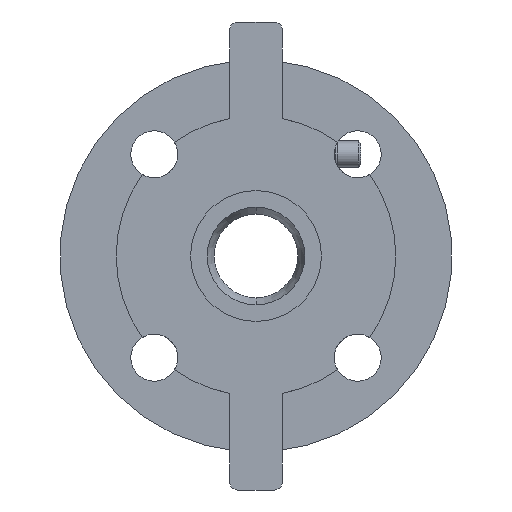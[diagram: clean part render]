
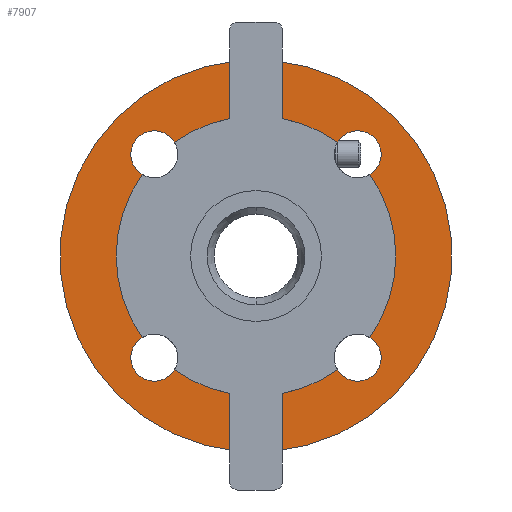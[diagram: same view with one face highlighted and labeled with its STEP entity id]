
A CAD part, front view. The second image highlights one B-rep face of the part: STEP entity #7907.
In plain terms, the highlighted planar face has unit normal (0, -1, 0).
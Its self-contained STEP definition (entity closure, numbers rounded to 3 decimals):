
#2601 = PLANE ( 'NONE',  #2980 ) ;
#2609 = CARTESIAN_POINT ( 'NONE',  ( 0., -19.6, 0. ) ) ;
#2610 = DIRECTION ( 'NONE',  ( 0., -1., 0. ) ) ;
#2611 = DIRECTION ( 'NONE',  ( 0.707, 0., -0.707 ) ) ;
#2980 = AXIS2_PLACEMENT_3D ( 'NONE', #2609, #2610, #2611 ) ;
#3895 = CARTESIAN_POINT ( 'NONE',  ( 0., -19.6, 0. ) ) ;
#3896 = DIRECTION ( 'NONE',  ( 0., -1., 0. ) ) ;
#3897 = DIRECTION ( 'NONE',  ( 0.707, 0., -0.707 ) ) ;
#3911 = CARTESIAN_POINT ( 'NONE',  ( -38.891, -19.6, 38.891 ) ) ;
#3912 = DIRECTION ( 'NONE',  ( 0., -1., 0. ) ) ;
#3913 = DIRECTION ( 'NONE',  ( 0.707, 0., 0.707 ) ) ;
#3927 = CARTESIAN_POINT ( 'NONE',  ( -38.891, -19.6, -38.891 ) ) ;
#3928 = DIRECTION ( 'NONE',  ( 0., -1., 0. ) ) ;
#3929 = DIRECTION ( 'NONE',  ( -0.707, 0., 0.707 ) ) ;
#3943 = CARTESIAN_POINT ( 'NONE',  ( 38.891, -19.6, -38.891 ) ) ;
#3944 = DIRECTION ( 'NONE',  ( 0., -1., 0. ) ) ;
#3945 = DIRECTION ( 'NONE',  ( -0.707, 0., -0.707 ) ) ;
#3959 = CARTESIAN_POINT ( 'NONE',  ( 38.891, -19.6, 38.891 ) ) ;
#3960 = DIRECTION ( 'NONE',  ( 0., -1., 0. ) ) ;
#3961 = DIRECTION ( 'NONE',  ( 0.707, 0., -0.707 ) ) ;
#3970 = CARTESIAN_POINT ( 'NONE',  ( 0., -19.6, 0. ) ) ;
#3971 = DIRECTION ( 'NONE',  ( 0., -1., 0. ) ) ;
#3972 = DIRECTION ( 'NONE',  ( 0.707, 0., -0.707 ) ) ;
#4013 = CARTESIAN_POINT ( 'NONE',  ( 0., -19.6, 0. ) ) ;
#4014 = DIRECTION ( 'NONE',  ( 0., -1., 0. ) ) ;
#4015 = DIRECTION ( 'NONE',  ( 0.707, 0., -0.707 ) ) ;
#4025 = CARTESIAN_POINT ( 'NONE',  ( 0., -19.6, 0. ) ) ;
#4026 = DIRECTION ( 'NONE',  ( 0., -1., 0. ) ) ;
#4027 = DIRECTION ( 'NONE',  ( 0.707, 0., -0.707 ) ) ;
#4031 = CARTESIAN_POINT ( 'NONE',  ( -38.891, -19.6, 38.891 ) ) ;
#4032 = DIRECTION ( 'NONE',  ( 0., -1., 0. ) ) ;
#4033 = DIRECTION ( 'NONE',  ( 0.707, 0., 0.707 ) ) ;
#4037 = CARTESIAN_POINT ( 'NONE',  ( -38.891, -19.6, -38.891 ) ) ;
#4038 = DIRECTION ( 'NONE',  ( 0., -1., 0. ) ) ;
#4039 = DIRECTION ( 'NONE',  ( -0.707, 0., 0.707 ) ) ;
#4043 = CARTESIAN_POINT ( 'NONE',  ( 38.891, -19.6, -38.891 ) ) ;
#4044 = DIRECTION ( 'NONE',  ( 0., -1., 0. ) ) ;
#4045 = DIRECTION ( 'NONE',  ( -0.707, 0., -0.707 ) ) ;
#4049 = CARTESIAN_POINT ( 'NONE',  ( 38.891, -19.6, 38.891 ) ) ;
#4050 = DIRECTION ( 'NONE',  ( 0., -1., 0. ) ) ;
#4051 = DIRECTION ( 'NONE',  ( 0.707, 0., -0.707 ) ) ;
#4391 = CARTESIAN_POINT ( 'NONE',  ( 53.033, -19.6, -53.033 ) ) ;
#4427 = CARTESIAN_POINT ( 'NONE',  ( -45.255, -19.6, 45.255 ) ) ;
#4428 = CARTESIAN_POINT ( 'NONE',  ( -26.87, -19.6, 26.87 ) ) ;
#4429 = CARTESIAN_POINT ( 'NONE',  ( 26.87, -19.6, -26.87 ) ) ;
#4430 = CARTESIAN_POINT ( 'NONE',  ( -45.255, -19.6, -32.527 ) ) ;
#4431 = CARTESIAN_POINT ( 'NONE',  ( -32.527, -19.6, 32.527 ) ) ;
#4432 = CARTESIAN_POINT ( 'NONE',  ( 32.527, -19.6, -32.527 ) ) ;
#4433 = CARTESIAN_POINT ( 'NONE',  ( -32.527, -19.6, -45.255 ) ) ;
#4434 = CARTESIAN_POINT ( 'NONE',  ( 32.527, -19.6, 45.255 ) ) ;
#4435 = CARTESIAN_POINT ( 'NONE',  ( 45.255, -19.6, -45.255 ) ) ;
#4436 = CARTESIAN_POINT ( 'NONE',  ( -53.033, -19.6, 53.033 ) ) ;
#4437 = CARTESIAN_POINT ( 'NONE',  ( 45.255, -19.6, 32.527 ) ) ;
#7042 = ORIENTED_EDGE ( 'NONE', *, *, #11876, .F. ) ;
#7043 = ORIENTED_EDGE ( 'NONE', *, *, #11828, .F. ) ;
#7044 = ORIENTED_EDGE ( 'NONE', *, *, #11878, .F. ) ;
#7045 = ORIENTED_EDGE ( 'NONE', *, *, #11834, .F. ) ;
#7046 = ORIENTED_EDGE ( 'NONE', *, *, #11880, .F. ) ;
#7047 = ORIENTED_EDGE ( 'NONE', *, *, #11840, .F. ) ;
#7048 = ORIENTED_EDGE ( 'NONE', *, *, #11882, .F. ) ;
#7049 = ORIENTED_EDGE ( 'NONE', *, *, #11846, .F. ) ;
#7050 = ORIENTED_EDGE ( 'NONE', *, *, #11884, .F. ) ;
#7051 = ORIENTED_EDGE ( 'NONE', *, *, #11852, .F. ) ;
#7052 = ORIENTED_EDGE ( 'NONE', *, *, #11872, .T. ) ;
#7053 = ORIENTED_EDGE ( 'NONE', *, *, #11856, .T. ) ;
#7907 = ADVANCED_FACE ( 'NONE', ( #18628, #18632, #18629, #18627, #18630, #18633 ), #2601, .T. ) ;
#11828 = EDGE_CURVE ( 'NONE', #12408, #12409, #16206, .T. ) ;
#11834 = EDGE_CURVE ( 'NONE', #12407, #12411, #16213, .T. ) ;
#11840 = EDGE_CURVE ( 'NONE', #12410, #12413, #16224, .T. ) ;
#11846 = EDGE_CURVE ( 'NONE', #12412, #12415, #16229, .T. ) ;
#11852 = EDGE_CURVE ( 'NONE', #12414, #12417, #16237, .T. ) ;
#11856 = EDGE_CURVE ( 'NONE', #12371, #12416, #16243, .T. ) ;
#11872 = EDGE_CURVE ( 'NONE', #12416, #12371, #16263, .T. ) ;
#11876 = EDGE_CURVE ( 'NONE', #12409, #12408, #16267, .T. ) ;
#11878 = EDGE_CURVE ( 'NONE', #12411, #12407, #16269, .T. ) ;
#11880 = EDGE_CURVE ( 'NONE', #12413, #12410, #16273, .T. ) ;
#11882 = EDGE_CURVE ( 'NONE', #12415, #12412, #16271, .T. ) ;
#11884 = EDGE_CURVE ( 'NONE', #12417, #12414, #16277, .T. ) ;
#12181 = EDGE_LOOP ( 'NONE', ( #7052, #7053 ) ) ;
#12196 = EDGE_LOOP ( 'NONE', ( #7044, #7045 ) ) ;
#12208 = EDGE_LOOP ( 'NONE', ( #7042, #7043 ) ) ;
#12211 = EDGE_LOOP ( 'NONE', ( #7050, #7051 ) ) ;
#12213 = EDGE_LOOP ( 'NONE', ( #7048, #7049 ) ) ;
#12214 = EDGE_LOOP ( 'NONE', ( #7046, #7047 ) ) ;
#12371 = VERTEX_POINT ( 'NONE', #4391 ) ;
#12407 = VERTEX_POINT ( 'NONE', #4427 ) ;
#12408 = VERTEX_POINT ( 'NONE', #4428 ) ;
#12409 = VERTEX_POINT ( 'NONE', #4429 ) ;
#12410 = VERTEX_POINT ( 'NONE', #4430 ) ;
#12411 = VERTEX_POINT ( 'NONE', #4431 ) ;
#12412 = VERTEX_POINT ( 'NONE', #4432 ) ;
#12413 = VERTEX_POINT ( 'NONE', #4433 ) ;
#12414 = VERTEX_POINT ( 'NONE', #4434 ) ;
#12415 = VERTEX_POINT ( 'NONE', #4435 ) ;
#12416 = VERTEX_POINT ( 'NONE', #4436 ) ;
#12417 = VERTEX_POINT ( 'NONE', #4437 ) ;
#16206 = CIRCLE ( 'NONE', #17662, 38. ) ;
#16213 = CIRCLE ( 'NONE', #17666, 9. ) ;
#16224 = CIRCLE ( 'NONE', #17670, 9. ) ;
#16229 = CIRCLE ( 'NONE', #17674, 9. ) ;
#16237 = CIRCLE ( 'NONE', #17678, 9. ) ;
#16243 = CIRCLE ( 'NONE', #17681, 75. ) ;
#16263 = CIRCLE ( 'NONE', #17693, 75. ) ;
#16267 = CIRCLE ( 'NONE', #17697, 38. ) ;
#16269 = CIRCLE ( 'NONE', #17699, 9. ) ;
#16271 = CIRCLE ( 'NONE', #17703, 9. ) ;
#16273 = CIRCLE ( 'NONE', #17701, 9. ) ;
#16277 = CIRCLE ( 'NONE', #17705, 9. ) ;
#17662 = AXIS2_PLACEMENT_3D ( 'NONE', #3895, #3896, #3897 ) ;
#17666 = AXIS2_PLACEMENT_3D ( 'NONE', #3911, #3912, #3913 ) ;
#17670 = AXIS2_PLACEMENT_3D ( 'NONE', #3927, #3928, #3929 ) ;
#17674 = AXIS2_PLACEMENT_3D ( 'NONE', #3943, #3944, #3945 ) ;
#17678 = AXIS2_PLACEMENT_3D ( 'NONE', #3959, #3960, #3961 ) ;
#17681 = AXIS2_PLACEMENT_3D ( 'NONE', #3970, #3971, #3972 ) ;
#17693 = AXIS2_PLACEMENT_3D ( 'NONE', #4013, #4014, #4015 ) ;
#17697 = AXIS2_PLACEMENT_3D ( 'NONE', #4025, #4026, #4027 ) ;
#17699 = AXIS2_PLACEMENT_3D ( 'NONE', #4031, #4032, #4033 ) ;
#17701 = AXIS2_PLACEMENT_3D ( 'NONE', #4037, #4038, #4039 ) ;
#17703 = AXIS2_PLACEMENT_3D ( 'NONE', #4043, #4044, #4045 ) ;
#17705 = AXIS2_PLACEMENT_3D ( 'NONE', #4049, #4050, #4051 ) ;
#18627 = FACE_BOUND ( 'NONE', #12213, .T. ) ;
#18628 = FACE_BOUND ( 'NONE', #12208, .T. ) ;
#18629 = FACE_BOUND ( 'NONE', #12214, .T. ) ;
#18630 = FACE_BOUND ( 'NONE', #12211, .T. ) ;
#18632 = FACE_BOUND ( 'NONE', #12196, .T. ) ;
#18633 = FACE_OUTER_BOUND ( 'NONE', #12181, .T. ) ;
